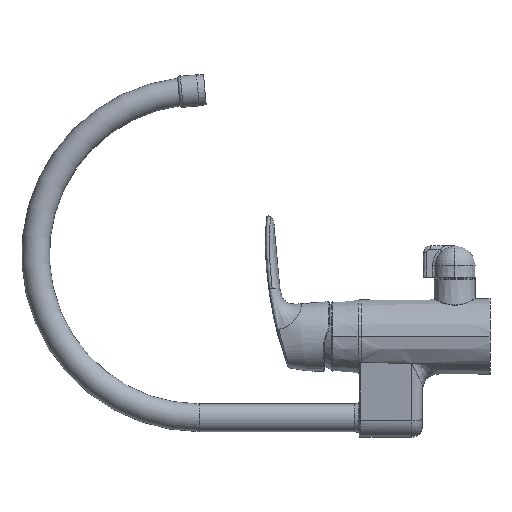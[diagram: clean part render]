
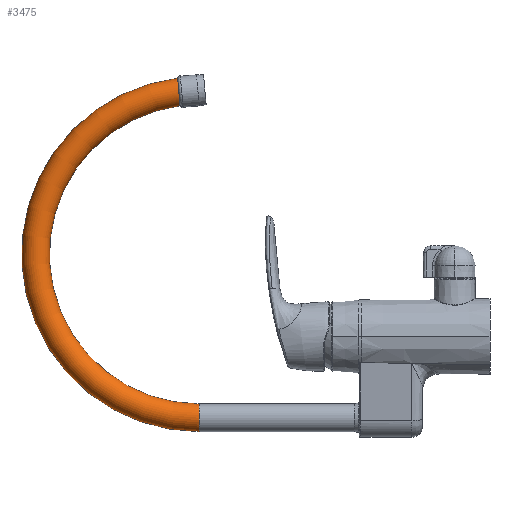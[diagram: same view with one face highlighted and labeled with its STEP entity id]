
A CAD part, left-side view. The second image highlights one B-rep face of the part: STEP entity #3475.
In plain terms, the highlighted toroidal (fillet/blend) face has major radius 118 mm and minor radius 10 mm.
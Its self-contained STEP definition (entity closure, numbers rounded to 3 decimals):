
#127 = CARTESIAN_POINT ( 'NONE',  ( -53.201, 465.871, 705.186 ) ) ;
#212 = DIRECTION ( 'NONE',  ( -1., 0., 0. ) ) ;
#316 = ORIENTED_EDGE ( 'NONE', *, *, #745, .T. ) ;
#745 = EDGE_CURVE ( 'NONE', #5462, #14946, #10006, .T. ) ;
#1252 = CARTESIAN_POINT ( 'NONE',  ( -61.228, 464.784, 692.761 ) ) ;
#1318 = CARTESIAN_POINT ( 'NONE',  ( -57.397, 464.301, 687.242 ) ) ;
#1377 = CARTESIAN_POINT ( 'NONE',  ( -61.565, 465.01, 695.339 ) ) ;
#1389 = CARTESIAN_POINT ( 'NONE',  ( -61.565, 465.01, 695.339 ) ) ;
#1519 = CARTESIAN_POINT ( 'NONE',  ( -61.501, 465.124, 696.65 ) ) ;
#1576 = CARTESIAN_POINT ( 'NONE',  ( -60.231, 465.447, 700.332 ) ) ;
#1686 = TOROIDAL_SURFACE ( 'NONE', #9287, 118., 10. ) ;
#1790 = DIRECTION ( 'NONE',  ( 0., -1., 0. ) ) ;
#2317 = DIRECTION ( 'NONE',  ( 0., -1., 0. ) ) ;
#2795 = CARTESIAN_POINT ( 'NONE',  ( -57.662, 464.319, 687.438 ) ) ;
#2917 = CARTESIAN_POINT ( 'NONE',  ( -61.564, 464.953, 694.689 ) ) ;
#2929 = CARTESIAN_POINT ( 'NONE',  ( -54.163, 465.855, 704.995 ) ) ;
#2956 = EDGE_CURVE ( 'NONE', #14946, #3709, #11183, .T. ) ;
#3005 = DIRECTION ( 'NONE',  ( -1., 0., 0. ) ) ;
#3048 = CARTESIAN_POINT ( 'NONE',  ( -60.682, 465.37, 699.456 ) ) ;
#3231 = CARTESIAN_POINT ( 'NONE',  ( -51.565, 450.392, 578.256 ) ) ;
#3475 = ADVANCED_FACE ( 'NONE', ( #9551 ), #1686, .T. ) ;
#3709 = VERTEX_POINT ( 'NONE', #19121 ) ;
#4035 = CARTESIAN_POINT ( 'NONE',  ( -51.565, 450.392, 460.256 ) ) ;
#4275 = CARTESIAN_POINT ( 'NONE',  ( -61.501, 464.896, 694.044 ) ) ;
#4348 = CARTESIAN_POINT ( 'NONE',  ( -60.063, 465.471, 700.611 ) ) ;
#4379 = CIRCLE ( 'NONE', #7233, 108. ) ;
#4432 = ORIENTED_EDGE ( 'NONE', *, *, #2956, .T. ) ;
#4557 = CARTESIAN_POINT ( 'NONE',  ( -51.565, 450.392, 578.256 ) ) ;
#4870 = CARTESIAN_POINT ( 'NONE',  ( -56.575, 465.766, 703.98 ) ) ;
#5462 = VERTEX_POINT ( 'NONE', #1389 ) ;
#5574 = EDGE_CURVE ( 'NONE', #11341, #5462, #6903, .T. ) ;
#5649 = CARTESIAN_POINT ( 'NONE',  ( -58.412, 464.374, 688.074 ) ) ;
#5711 = CARTESIAN_POINT ( 'NONE',  ( -59.102, 464.434, 688.763 ) ) ;
#5773 = CARTESIAN_POINT ( 'NONE',  ( -58.17, 464.355, 687.854 ) ) ;
#5834 = CARTESIAN_POINT ( 'NONE',  ( -51.565, 464.138, 685.377 ) ) ;
#6903 = B_SPLINE_CURVE_WITH_KNOTS ( 'NONE', 3,
 ( #5834, #13340, #11848, #7116, #16138, #8609, #13282, #19151, #17620, #7181, #8733, #1318, #2795, #5773, #5649, #5711, #17678, #11659, #13159, #13093, #16199, #7244, #1252, #17555, #4275, #2917, #1377 ),
 .UNSPECIFIED., .F., .F.,
 ( 4, 2, 2, 2, 2, 2, 2, 2, 2, 2, 1, 2, 2, 4 ),
 ( 0.059, 0.06, 0.061, 0.062, 0.063, 0.065, 0.066, 0.067, 0.069, 0.07, 0.071, 0.072, 0.073, 0.075 ),
 .UNSPECIFIED. ) ;
#7116 = CARTESIAN_POINT ( 'NONE',  ( -52.872, 464.145, 685.457 ) ) ;
#7181 = CARTESIAN_POINT ( 'NONE',  ( -56.009, 464.227, 686.392 ) ) ;
#7233 = AXIS2_PLACEMENT_3D ( 'NONE', #16421, #212, #1790 ) ;
#7244 = CARTESIAN_POINT ( 'NONE',  ( -61.038, 464.73, 692.137 ) ) ;
#7259 = CARTESIAN_POINT ( 'NONE',  ( -56.855, 465.751, 703.812 ) ) ;
#7317 = CARTESIAN_POINT ( 'NONE',  ( -59.52, 465.542, 701.421 ) ) ;
#7379 = CARTESIAN_POINT ( 'NONE',  ( -59.107, 465.586, 701.926 ) ) ;
#8609 = CARTESIAN_POINT ( 'NONE',  ( -53.843, 464.161, 685.634 ) ) ;
#8733 = CARTESIAN_POINT ( 'NONE',  ( -56.582, 464.254, 686.698 ) ) ;
#8746 = CARTESIAN_POINT ( 'NONE',  ( -51.891, 465.883, 705.315 ) ) ;
#8869 = CARTESIAN_POINT ( 'NONE',  ( -55.696, 465.805, 704.431 ) ) ;
#8984 = CARTESIAN_POINT ( 'NONE',  ( -51.565, 465.883, 705.315 ) ) ;
#8990 = CARTESIAN_POINT ( 'NONE',  ( -61.565, 465.01, 695.339 ) ) ;
#9287 = AXIS2_PLACEMENT_3D ( 'NONE', #4557, #3005, #16410 ) ;
#9312 = DIRECTION ( 'NONE',  ( 0., -1., 0. ) ) ;
#9551 = FACE_OUTER_BOUND ( 'NONE', #14999, .T. ) ;
#10006 = B_SPLINE_CURVE_WITH_KNOTS ( 'NONE', 3,
 ( #8990, #14779, #1519, #16396, #14846, #3048, #10423, #1576, #4348, #7317, #7379, #17633, #17751, #7259, #4870, #19102, #8869, #11862, #2929, #127, #10484, #11924, #8746, #11736 ),
 .UNSPECIFIED., .F., .F.,
 ( 4, 2, 2, 2, 2, 2, 2, 2, 2, 2, 2, 4 ),
 ( 0.012, 0.014, 0.016, 0.017, 0.018, 0.02, 0.022, 0.023, 0.024, 0.026, 0.027, 0.028 ),
 .UNSPECIFIED. ) ;
#10423 = CARTESIAN_POINT ( 'NONE',  ( -60.54, 465.396, 699.755 ) ) ;
#10484 = CARTESIAN_POINT ( 'NONE',  ( -52.875, 465.875, 705.235 ) ) ;
#11183 = CIRCLE ( 'NONE', #14656, 128. ) ;
#11341 = VERTEX_POINT ( 'NONE', #15751 ) ;
#11659 = CARTESIAN_POINT ( 'NONE',  ( -60.063, 464.55, 690.082 ) ) ;
#11736 = CARTESIAN_POINT ( 'NONE',  ( -51.565, 465.883, 705.315 ) ) ;
#11771 = ORIENTED_EDGE ( 'NONE', *, *, #15248, .F. ) ;
#11848 = CARTESIAN_POINT ( 'NONE',  ( -52.217, 464.14, 685.393 ) ) ;
#11862 = CARTESIAN_POINT ( 'NONE',  ( -54.787, 465.838, 704.806 ) ) ;
#11924 = CARTESIAN_POINT ( 'NONE',  ( -52.219, 465.881, 705.299 ) ) ;
#12832 = AXIS2_PLACEMENT_3D ( 'NONE', #4035, #2317, #18667 ) ;
#13093 = CARTESIAN_POINT ( 'NONE',  ( -60.54, 464.625, 690.939 ) ) ;
#13159 = CARTESIAN_POINT ( 'NONE',  ( -60.233, 464.575, 690.365 ) ) ;
#13282 = CARTESIAN_POINT ( 'NONE',  ( -54.162, 464.168, 685.714 ) ) ;
#13340 = CARTESIAN_POINT ( 'NONE',  ( -51.891, 464.138, 685.377 ) ) ;
#14229 = EDGE_CURVE ( 'NONE', #11341, #17681, #4379, .T. ) ;
#14456 = ORIENTED_EDGE ( 'NONE', *, *, #14229, .F. ) ;
#14656 = AXIS2_PLACEMENT_3D ( 'NONE', #3231, #15162, #9312 ) ;
#14779 = CARTESIAN_POINT ( 'NONE',  ( -61.565, 465.067, 695.989 ) ) ;
#14846 = CARTESIAN_POINT ( 'NONE',  ( -61.057, 465.291, 698.549 ) ) ;
#14946 = VERTEX_POINT ( 'NONE', #8984 ) ;
#14999 = EDGE_LOOP ( 'NONE', ( #316, #4432, #11771, #14456, #15464 ) ) ;
#15162 = DIRECTION ( 'NONE',  ( -1., 0., 0. ) ) ;
#15248 = EDGE_CURVE ( 'NONE', #17681, #3709, #16666, .T. ) ;
#15464 = ORIENTED_EDGE ( 'NONE', *, *, #5574, .T. ) ;
#15751 = CARTESIAN_POINT ( 'NONE',  ( -51.565, 464.138, 685.377 ) ) ;
#16138 = CARTESIAN_POINT ( 'NONE',  ( -53.199, 464.149, 685.506 ) ) ;
#16199 = CARTESIAN_POINT ( 'NONE',  ( -60.818, 464.676, 691.526 ) ) ;
#16396 = CARTESIAN_POINT ( 'NONE',  ( -61.246, 465.236, 697.928 ) ) ;
#16410 = DIRECTION ( 'NONE',  ( 0., -1., 0. ) ) ;
#16421 = CARTESIAN_POINT ( 'NONE',  ( -51.565, 450.392, 578.256 ) ) ;
#16666 = CIRCLE ( 'NONE', #12832, 10. ) ;
#17555 = CARTESIAN_POINT ( 'NONE',  ( -61.309, 464.812, 693.081 ) ) ;
#17620 = CARTESIAN_POINT ( 'NONE',  ( -55.102, 464.194, 686.016 ) ) ;
#17633 = CARTESIAN_POINT ( 'NONE',  ( -58.173, 465.668, 702.858 ) ) ;
#17678 = CARTESIAN_POINT ( 'NONE',  ( -59.515, 464.478, 689.265 ) ) ;
#17681 = VERTEX_POINT ( 'NONE', #19094 ) ;
#17751 = CARTESIAN_POINT ( 'NONE',  ( -57.668, 465.704, 703.27 ) ) ;
#18667 = DIRECTION ( 'NONE',  ( 0., 0., 1. ) ) ;
#19094 = CARTESIAN_POINT ( 'NONE',  ( -51.565, 450.392, 470.256 ) ) ;
#19102 = CARTESIAN_POINT ( 'NONE',  ( -55.996, 465.793, 704.289 ) ) ;
#19121 = CARTESIAN_POINT ( 'NONE',  ( -51.565, 450.392, 450.256 ) ) ;
#19151 = CARTESIAN_POINT ( 'NONE',  ( -54.791, 464.184, 685.905 ) ) ;
